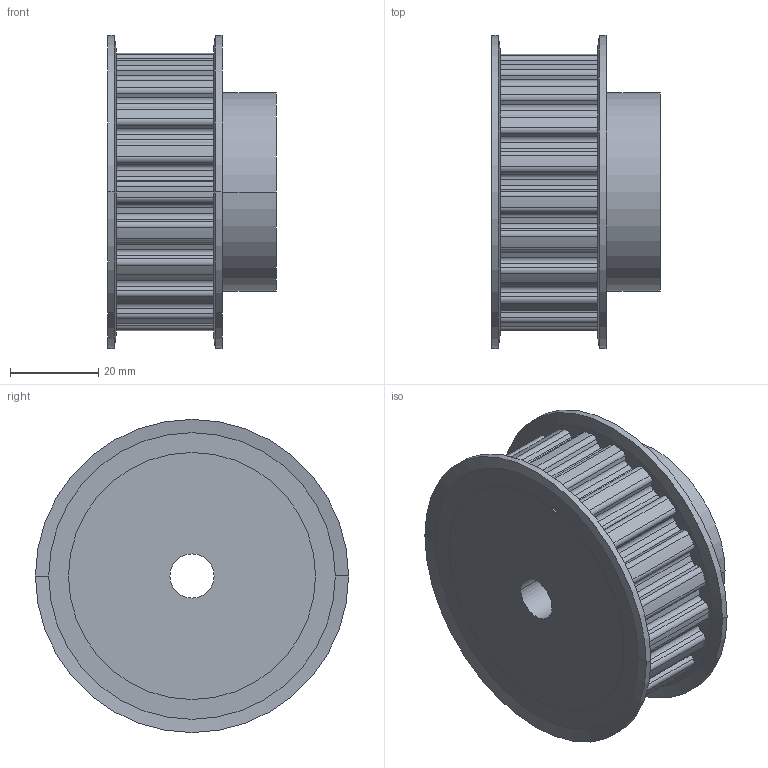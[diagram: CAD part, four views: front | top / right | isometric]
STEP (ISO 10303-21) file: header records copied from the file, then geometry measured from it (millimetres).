
FILE_DESCRIPTION( ( '' ), '1' );
FILE_NAME( 'C:/Users/Stangenbergd/Documents/CAD_Step/1/18222100.stp', '2021-10-19T10:37:26', ( '' ), ( '' ), ' ', ' ', ' ' );
FILE_SCHEMA( ( 'CONFIG_CONTROL_DESIGN' ) );
Length unit declared in the file: millimetre
Products named in the file (1): 1
Bounding box: 38.27 x 71 x 71 mm (x, y, z)
Volume: 93427.4 mm3; surface area: 19224.2 mm2
Topology: 1 solids, 1 shells, 196 faces, 559 edges, 370 vertices
Faces by surface type: cylinder 118, plane 70, cone 8
Entity records: 6531 total; most frequent: DIRECTION 1197, CARTESIAN_POINT 1126, ORIENTED_EDGE 1118, EDGE_CURVE 559, AXIS2_PLACEMENT_3D 441, VERTEX_POINT 370, LINE 315, VECTOR 315
